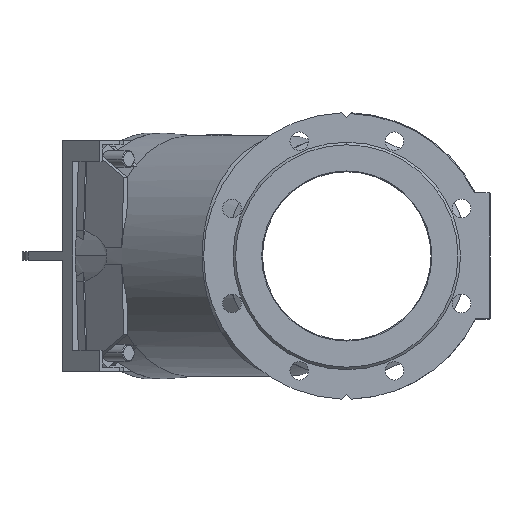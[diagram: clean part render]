
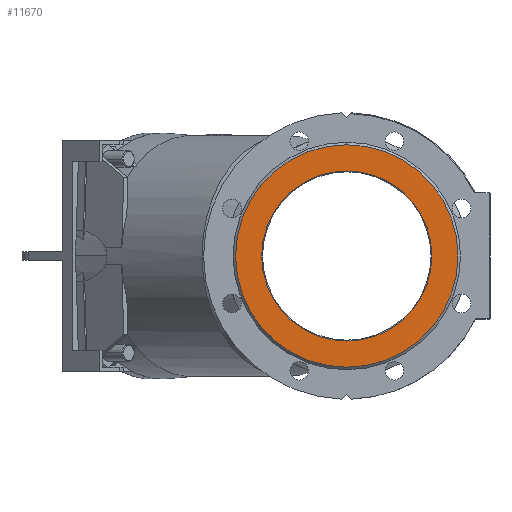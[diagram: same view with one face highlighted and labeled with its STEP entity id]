
A CAD part, left-side view. The second image highlights one B-rep face of the part: STEP entity #11670.
In plain terms, the highlighted planar face has unit normal (-1, 0, 0).
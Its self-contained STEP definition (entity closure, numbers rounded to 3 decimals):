
#11650 = ORIENTED_EDGE ( 'NONE', *, *, #11651, .T. ) ;
#11651 = EDGE_CURVE ( 'NONE', #15715, #15729, #19064, .T. ) ;
#11652 = ORIENTED_EDGE ( 'NONE', *, *, #15714, .T. ) ;
#11670 = ADVANCED_FACE ( 'NONE', ( #19093, #19092 ), #19091, .F. ) ;
#11671 = EDGE_LOOP ( 'NONE', ( #11672, #11673 ) ) ;
#11672 = ORIENTED_EDGE ( 'NONE', *, *, #16122, .T. ) ;
#11673 = ORIENTED_EDGE ( 'NONE', *, *, #11674, .T. ) ;
#11674 = EDGE_CURVE ( 'NONE', #16124, #16127, #19085, .T. ) ;
#11675 = EDGE_LOOP ( 'NONE', ( #11650, #11652 ) ) ;
#15714 = EDGE_CURVE ( 'NONE', #15729, #15715, #29053, .T. ) ;
#15715 = VERTEX_POINT ( 'NONE', #29048 ) ;
#15729 = VERTEX_POINT ( 'NONE', #29081 ) ;
#16122 = EDGE_CURVE ( 'NONE', #16127, #16124, #30452, .T. ) ;
#16124 = VERTEX_POINT ( 'NONE', #30444 ) ;
#16127 = VERTEX_POINT ( 'NONE', #30495 ) ;
#19060 = DIRECTION ( 'NONE',  ( 0., 0., 1. ) ) ;
#19061 = DIRECTION ( 'NONE',  ( -1., 0., 0. ) ) ;
#19062 = CARTESIAN_POINT ( 'NONE',  ( -250., 0., 0. ) ) ;
#19063 = AXIS2_PLACEMENT_3D ( 'NONE', #19062, #19061, #19060 ) ;
#19064 = CIRCLE ( 'NONE', #19063, 132. ) ;
#19082 = DIRECTION ( 'NONE',  ( 0., 0., -1. ) ) ;
#19083 = DIRECTION ( 'NONE',  ( 1., 0., 0. ) ) ;
#19084 = AXIS2_PLACEMENT_3D ( 'NONE', #19089, #19083, #19082 ) ;
#19085 = CIRCLE ( 'NONE', #19084, 101. ) ;
#19086 = DIRECTION ( 'NONE',  ( 0., 0., -1. ) ) ;
#19087 = DIRECTION ( 'NONE',  ( 1., 0., 0. ) ) ;
#19088 = CARTESIAN_POINT ( 'NONE',  ( -250., 0., 0. ) ) ;
#19089 = CARTESIAN_POINT ( 'NONE',  ( -250., 0., 0. ) ) ;
#19090 = AXIS2_PLACEMENT_3D ( 'NONE', #19088, #19087, #19086 ) ;
#19091 = PLANE ( 'NONE',  #19090 ) ;
#19092 = FACE_OUTER_BOUND ( 'NONE', #11675, .T. ) ;
#19093 = FACE_BOUND ( 'NONE', #11671, .T. ) ;
#29048 = CARTESIAN_POINT ( 'NONE',  ( -250., 0., -132. ) ) ;
#29049 = DIRECTION ( 'NONE',  ( 0., 0., 1. ) ) ;
#29050 = DIRECTION ( 'NONE',  ( -1., 0., 0. ) ) ;
#29051 = CARTESIAN_POINT ( 'NONE',  ( -250., 0., 0. ) ) ;
#29052 = AXIS2_PLACEMENT_3D ( 'NONE', #29051, #29050, #29049 ) ;
#29053 = CIRCLE ( 'NONE', #29052, 132. ) ;
#29081 = CARTESIAN_POINT ( 'NONE',  ( -250., 0., 132. ) ) ;
#30444 = CARTESIAN_POINT ( 'NONE',  ( -250., 0., -101. ) ) ;
#30448 = DIRECTION ( 'NONE',  ( 0., 0., -1. ) ) ;
#30449 = DIRECTION ( 'NONE',  ( 1., 0., 0. ) ) ;
#30450 = CARTESIAN_POINT ( 'NONE',  ( -250., 0., 0. ) ) ;
#30451 = AXIS2_PLACEMENT_3D ( 'NONE', #30450, #30449, #30448 ) ;
#30452 = CIRCLE ( 'NONE', #30451, 101. ) ;
#30495 = CARTESIAN_POINT ( 'NONE',  ( -250., 0., 101. ) ) ;
